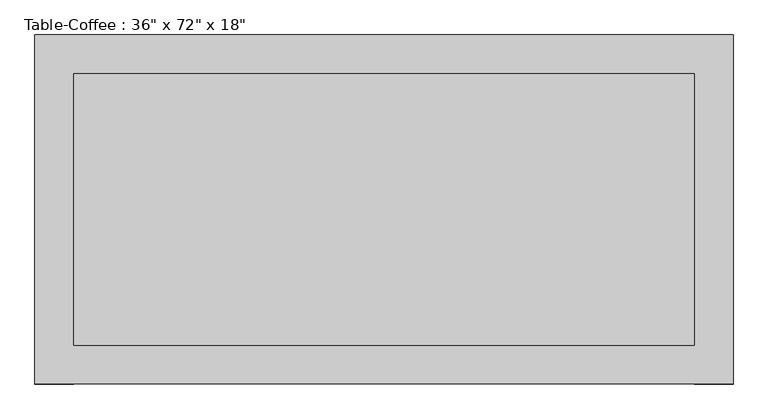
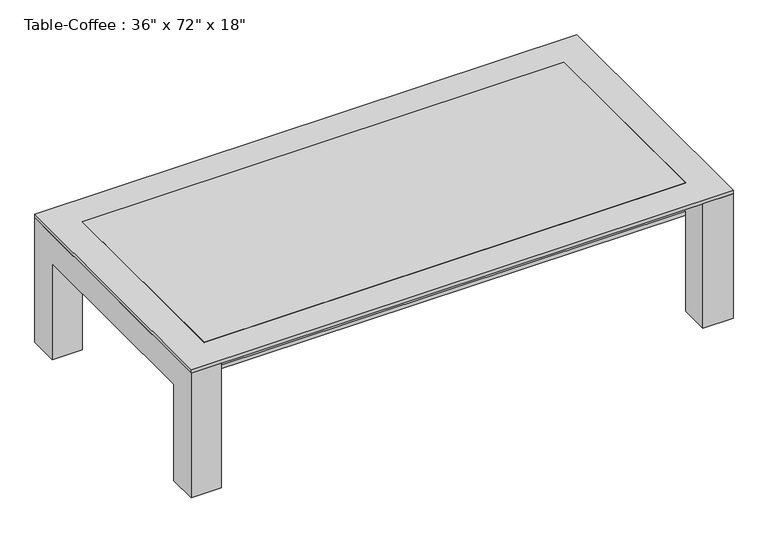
"""IFC4 building model written with IfcOpenShell, lengths in millimetres: furniture geometry."""

from ifc_helpers import new_model, si_unit, frame, origin, place, context, project, spatial, polyline, outline, extrude, source, transform, mapped, element, save


def furniture_c9413244(model_context):
    return source(origin(), model_context, "Body", "SweptSolid", [
        extrude(outline(polyline([(831.0657667, -450.8110778), (-794.5342333, -450.8110778), (-794.5342333, 260.3889222), (831.0657667, 260.3889222), (831.0657667, -450.8110778)])), frame((0.0, 0.0, 342.9), z_axis=(0.0, 0.0, 1.0), x_axis=(1.0, 0.0, 0.0)), (0.0, 0.0, 1.0), 12.7),
        extrude(outline(polyline([(-552.4110778, 0.0), (-552.4110778, 444.5), (361.9889222, 444.5), (361.9889222, 0.0), (260.3889222, 0.0), (260.3889222, 342.9), (-450.8110778, 342.9), (-450.8110778, 0.0), (-552.4110778, 0.0)])), frame((831.0657667, 0.0, 0.0), z_axis=(1.0, 0.0, 0.0), x_axis=(0.0, 1.0, 0.0)), (0.0, 0.0, 1.0), 101.6),
        extrude(outline(polyline([(-552.4110778, 444.5), (361.9889222, 444.5), (361.9889222, 0.0), (260.3889222, 0.0), (260.3889222, 342.9), (-450.8110778, 342.9), (-450.8110778, 0.0), (-552.4110778, 0.0), (-552.4110778, 444.5)])), frame((-896.1342333, 0.0, 0.0), z_axis=(1.0, 0.0, 0.0), x_axis=(0.0, 1.0, 0.0)), (0.0, 0.0, 1.0), 101.6),
        extrude(outline(polyline([(831.0657667, -450.8110778), (-794.5342333, -450.8110778), (-794.5342333, 260.3889222), (831.0657667, 260.3889222), (831.0657667, -450.8110778)])), frame((0.0, 0.0, 444.5), z_axis=(0.0, 0.0, 1.0), x_axis=(1.0, 0.0, 0.0)), (0.0, 0.0, 1.0), 12.7),
        extrude(outline(polyline([(932.6657667, -552.4110778), (-896.1342333, -552.4110778), (-896.1342333, 361.9889222), (932.6657667, 361.9889222), (932.6657667, -552.4110778)]), holes=[polyline([(831.0657667, -450.8110778), (831.0657667, 260.3889222), (-794.5342333, 260.3889222), (-794.5342333, -450.8110778), (831.0657667, -450.8110778)])]), frame((0.0, 0.0, 444.5), z_axis=(0.0, 0.0, 1.0), x_axis=(1.0, 0.0, 0.0)), (0.0, 0.0, 1.0), 12.7),
    ])


if __name__ == "__main__":
    model = new_model("IFC4")
    model_context = context("Model", 3, world=origin())
    ifc_project = project(units=[si_unit("LENGTHUNIT", "METRE", prefix="MILLI")], contexts=[model_context])
    site = spatial("IfcSite", under=ifc_project)
    building = spatial("IfcBuilding", under=site)
    placement = place(None, origin())
    furniture_shape = furniture_c9413244(model_context)
    element("IfcFurniture", 1, ObjectType="Table-Coffee : 36\" x 72\" x 18\"", at=placement, inside=building, context=model_context, shape_type="MappedRepresentation", body=[
        mapped(furniture_shape, transform((0.0, 0.0, 0.0), x_axis=(1.0, 0.0, 0.0), y_axis=(0.0, 1.0, 0.0), z_axis=(0.0, 0.0, 1.0))),
    ])
    save(model, "model.ifc")
